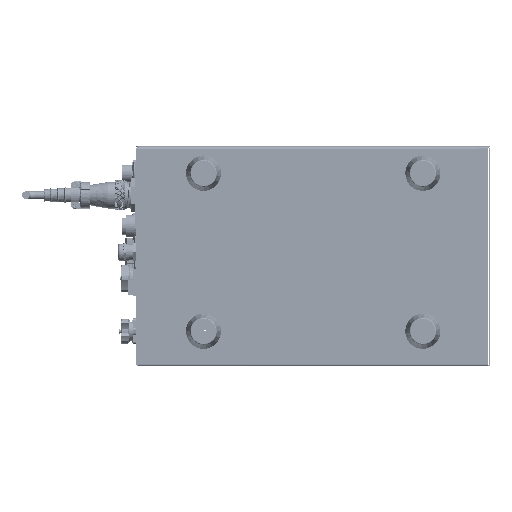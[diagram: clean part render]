
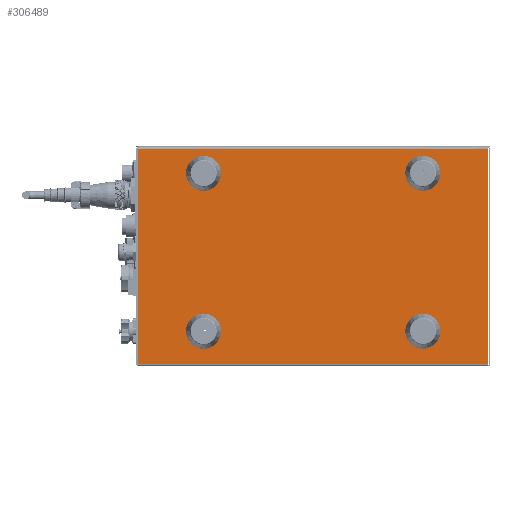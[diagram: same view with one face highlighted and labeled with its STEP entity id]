
A CAD part, front view. The second image highlights one B-rep face of the part: STEP entity #306489.
In plain terms, the highlighted planar face has unit normal (0, -1, 0).
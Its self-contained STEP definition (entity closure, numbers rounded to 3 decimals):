
#10952 = DIRECTION ( 'NONE',  ( 0., 0., 1. ) ) ;
#20862 = ORIENTED_EDGE ( 'NONE', *, *, #47337, .T. ) ;
#25437 = VERTEX_POINT ( 'NONE', #658602 ) ;
#27224 = AXIS2_PLACEMENT_3D ( 'NONE', #336657, #95226, #580608 ) ;
#45318 = CIRCLE ( 'NONE', #268265, 3.25 ) ;
#47337 = EDGE_CURVE ( 'NONE', #488373, #567845, #177172, .T. ) ;
#76310 = FACE_OUTER_BOUND ( 'NONE', #608992, .T. ) ;
#80942 = ORIENTED_EDGE ( 'NONE', *, *, #726768, .T. ) ;
#95226 = DIRECTION ( 'NONE',  ( 0., 1., 0. ) ) ;
#101809 = ORIENTED_EDGE ( 'NONE', *, *, #785256, .T. ) ;
#103446 = VERTEX_POINT ( 'NONE', #364254 ) ;
#104868 = CARTESIAN_POINT ( 'NONE',  ( 140.939, -249.787, 497.554 ) ) ;
#114537 = EDGE_LOOP ( 'NONE', ( #569818, #411493 ) ) ;
#125693 = CARTESIAN_POINT ( 'NONE',  ( 215.232, -249.787, 279.054 ) ) ;
#132340 = EDGE_CURVE ( 'NONE', #544349, #251045, #758397, .T. ) ;
#136624 = DIRECTION ( 'NONE',  ( 0., 0., 1. ) ) ;
#139517 = VERTEX_POINT ( 'NONE', #482001 ) ;
#140164 = EDGE_LOOP ( 'NONE', ( #80942, #190362 ) ) ;
#146169 = CARTESIAN_POINT ( 'NONE',  ( 140.939, -249.787, 314.304 ) ) ;
#146213 = EDGE_CURVE ( 'NONE', #578075, #717361, #244787, .T. ) ;
#148091 = ORIENTED_EDGE ( 'NONE', *, *, #346970, .F. ) ;
#153972 = ORIENTED_EDGE ( 'NONE', *, *, #146213, .T. ) ;
#161706 = CIRCLE ( 'NONE', #622904, 3.25 ) ;
#169525 = DIRECTION ( 'NONE',  ( 0., 1., 0. ) ) ;
#171542 = FACE_BOUND ( 'NONE', #114537, .T. ) ;
#177172 = CIRCLE ( 'NONE', #644747, 3.25 ) ;
#189768 = PLANE ( 'NONE',  #424705 ) ;
#190362 = ORIENTED_EDGE ( 'NONE', *, *, #637764, .T. ) ;
#232483 = CARTESIAN_POINT ( 'NONE',  ( -183.354, -249.787, 279.054 ) ) ;
#235665 = CARTESIAN_POINT ( 'NONE',  ( -183.354, -249.787, 279.79 ) ) ;
#241640 = EDGE_CURVE ( 'NONE', #251045, #25437, #551038, .T. ) ;
#244787 = CIRCLE ( 'NONE', #556504, 3.25 ) ;
#251045 = VERTEX_POINT ( 'NONE', #630188 ) ;
#251962 = CARTESIAN_POINT ( 'NONE',  ( 140.939, -249.787, 497.554 ) ) ;
#254684 = DIRECTION ( 'NONE',  ( 0., 1., 0. ) ) ;
#265039 = CARTESIAN_POINT ( 'NONE',  ( 140.939, -249.787, 317.554 ) ) ;
#268265 = AXIS2_PLACEMENT_3D ( 'NONE', #366819, #608032, #735113 ) ;
#293733 = LINE ( 'NONE', #232483, #673453 ) ;
#294759 = FACE_BOUND ( 'NONE', #743851, .T. ) ;
#304019 = CIRCLE ( 'NONE', #27224, 3.25 ) ;
#304332 = CARTESIAN_POINT ( 'NONE',  ( 15.939, -249.787, 279.79 ) ) ;
#306489 = ADVANCED_FACE ( 'NONE', ( #617401, #171542, #721633, #294759, #76310 ), #189768, .F. ) ;
#309643 = EDGE_CURVE ( 'NONE', #653455, #595523, #434200, .T. ) ;
#312168 = DIRECTION ( 'NONE',  ( -1., 0., 0. ) ) ;
#313119 = AXIS2_PLACEMENT_3D ( 'NONE', #265039, #448122, #750301 ) ;
#317033 = CARTESIAN_POINT ( 'NONE',  ( 15.939, -249.787, 279.054 ) ) ;
#336657 = CARTESIAN_POINT ( 'NONE',  ( -109.061, -249.787, 317.554 ) ) ;
#346645 = CARTESIAN_POINT ( 'NONE',  ( -109.061, -249.787, 317.554 ) ) ;
#346970 = EDGE_CURVE ( 'NONE', #544349, #411052, #691346, .T. ) ;
#355497 = ORIENTED_EDGE ( 'NONE', *, *, #132340, .T. ) ;
#364254 = CARTESIAN_POINT ( 'NONE',  ( -109.061, -249.787, 500.804 ) ) ;
#366819 = CARTESIAN_POINT ( 'NONE',  ( -109.061, -249.787, 497.554 ) ) ;
#389786 = VECTOR ( 'NONE', #660731, 1000. ) ;
#411052 = VERTEX_POINT ( 'NONE', #235665 ) ;
#411493 = ORIENTED_EDGE ( 'NONE', *, *, #309643, .T. ) ;
#424705 = AXIS2_PLACEMENT_3D ( 'NONE', #317033, #738553, #136624 ) ;
#434200 = CIRCLE ( 'NONE', #628891, 3.25 ) ;
#434278 = ORIENTED_EDGE ( 'NONE', *, *, #773689, .F. ) ;
#437779 = DIRECTION ( 'NONE',  ( 0., 1., 0. ) ) ;
#448122 = DIRECTION ( 'NONE',  ( 0., 1., 0. ) ) ;
#470867 = DIRECTION ( 'NONE',  ( 0., 1., 0. ) ) ;
#482001 = CARTESIAN_POINT ( 'NONE',  ( -109.061, -249.787, 494.304 ) ) ;
#482259 = VECTOR ( 'NONE', #735470, 1000. ) ;
#488373 = VERTEX_POINT ( 'NONE', #741322 ) ;
#496116 = CARTESIAN_POINT ( 'NONE',  ( -109.061, -249.787, 497.554 ) ) ;
#497427 = EDGE_LOOP ( 'NONE', ( #101809, #153972 ) ) ;
#524624 = CIRCLE ( 'NONE', #635915, 3.25 ) ;
#530246 = CARTESIAN_POINT ( 'NONE',  ( 140.939, -249.787, 317.554 ) ) ;
#532170 = DIRECTION ( 'NONE',  ( 0., 1., 0. ) ) ;
#539659 = DIRECTION ( 'NONE',  ( 0., 0., 1. ) ) ;
#541230 = CARTESIAN_POINT ( 'NONE',  ( 215.232, -249.787, 279.79 ) ) ;
#544349 = VERTEX_POINT ( 'NONE', #541230 ) ;
#551038 = LINE ( 'NONE', #668583, #389786 ) ;
#556504 = AXIS2_PLACEMENT_3D ( 'NONE', #346645, #532170, #770657 ) ;
#556702 = CARTESIAN_POINT ( 'NONE',  ( -109.061, -249.787, 320.804 ) ) ;
#567845 = VERTEX_POINT ( 'NONE', #615010 ) ;
#569818 = ORIENTED_EDGE ( 'NONE', *, *, #705901, .T. ) ;
#578075 = VERTEX_POINT ( 'NONE', #757601 ) ;
#580608 = DIRECTION ( 'NONE',  ( 0., 0., 1. ) ) ;
#591229 = DIRECTION ( 'NONE',  ( 0., 0., 1. ) ) ;
#595523 = VERTEX_POINT ( 'NONE', #719543 ) ;
#596344 = VECTOR ( 'NONE', #312168, 1000. ) ;
#608032 = DIRECTION ( 'NONE',  ( 0., 1., 0. ) ) ;
#608992 = EDGE_LOOP ( 'NONE', ( #640684, #434278, #148091, #355497 ) ) ;
#615010 = CARTESIAN_POINT ( 'NONE',  ( 140.939, -249.787, 494.304 ) ) ;
#617401 = FACE_BOUND ( 'NONE', #140164, .T. ) ;
#622904 = AXIS2_PLACEMENT_3D ( 'NONE', #104868, #470867, #539659 ) ;
#628891 = AXIS2_PLACEMENT_3D ( 'NONE', #530246, #169525, #591229 ) ;
#630188 = CARTESIAN_POINT ( 'NONE',  ( 215.232, -249.787, 525.317 ) ) ;
#635915 = AXIS2_PLACEMENT_3D ( 'NONE', #496116, #254684, #10952 ) ;
#637764 = EDGE_CURVE ( 'NONE', #139517, #103446, #45318, .T. ) ;
#640684 = ORIENTED_EDGE ( 'NONE', *, *, #241640, .T. ) ;
#644747 = AXIS2_PLACEMENT_3D ( 'NONE', #251962, #437779, #676311 ) ;
#653455 = VERTEX_POINT ( 'NONE', #146169 ) ;
#658602 = CARTESIAN_POINT ( 'NONE',  ( -183.354, -249.787, 525.317 ) ) ;
#660731 = DIRECTION ( 'NONE',  ( -1., 0., 0. ) ) ;
#668583 = CARTESIAN_POINT ( 'NONE',  ( 215.232, -249.787, 525.317 ) ) ;
#673453 = VECTOR ( 'NONE', #715116, 1000. ) ;
#675235 = EDGE_CURVE ( 'NONE', #567845, #488373, #161706, .T. ) ;
#676311 = DIRECTION ( 'NONE',  ( 0., 0., 1. ) ) ;
#691346 = LINE ( 'NONE', #304332, #596344 ) ;
#705901 = EDGE_CURVE ( 'NONE', #595523, #653455, #769764, .T. ) ;
#715116 = DIRECTION ( 'NONE',  ( 0., 0., 1. ) ) ;
#717361 = VERTEX_POINT ( 'NONE', #556702 ) ;
#719543 = CARTESIAN_POINT ( 'NONE',  ( 140.939, -249.787, 320.804 ) ) ;
#721633 = FACE_BOUND ( 'NONE', #497427, .T. ) ;
#726768 = EDGE_CURVE ( 'NONE', #103446, #139517, #524624, .T. ) ;
#735113 = DIRECTION ( 'NONE',  ( 0., 0., 1. ) ) ;
#735470 = DIRECTION ( 'NONE',  ( 0., 0., 1. ) ) ;
#738553 = DIRECTION ( 'NONE',  ( 0., 1., 0. ) ) ;
#741322 = CARTESIAN_POINT ( 'NONE',  ( 140.939, -249.787, 500.804 ) ) ;
#743851 = EDGE_LOOP ( 'NONE', ( #20862, #763947 ) ) ;
#750301 = DIRECTION ( 'NONE',  ( 0., 0., 1. ) ) ;
#757601 = CARTESIAN_POINT ( 'NONE',  ( -109.061, -249.787, 314.304 ) ) ;
#758397 = LINE ( 'NONE', #125693, #482259 ) ;
#763947 = ORIENTED_EDGE ( 'NONE', *, *, #675235, .T. ) ;
#769764 = CIRCLE ( 'NONE', #313119, 3.25 ) ;
#770657 = DIRECTION ( 'NONE',  ( 0., 0., 1. ) ) ;
#773689 = EDGE_CURVE ( 'NONE', #411052, #25437, #293733, .T. ) ;
#785256 = EDGE_CURVE ( 'NONE', #717361, #578075, #304019, .T. ) ;
